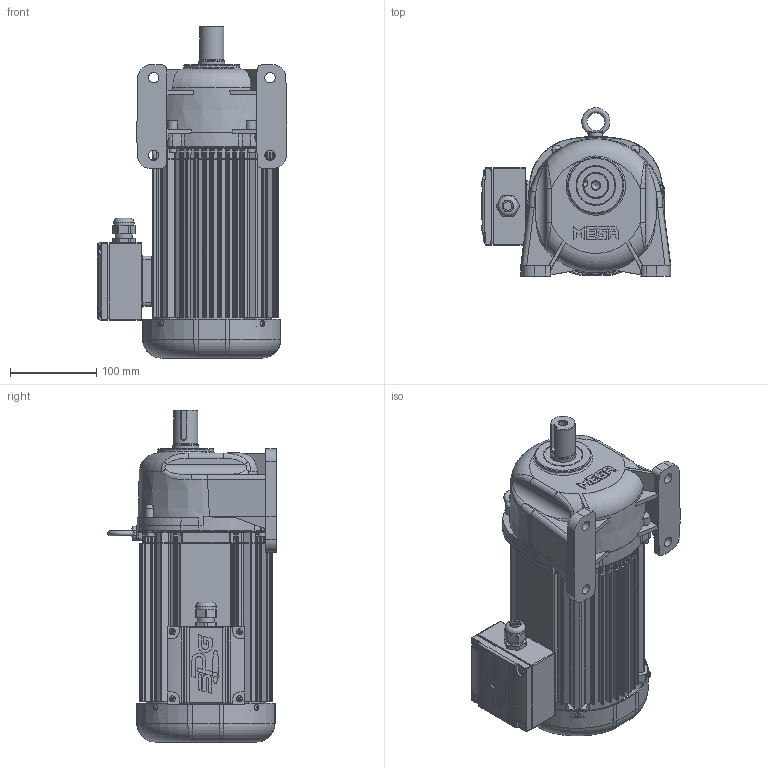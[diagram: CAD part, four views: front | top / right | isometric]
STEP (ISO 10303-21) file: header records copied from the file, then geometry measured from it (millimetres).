
FILE_DESCRIPTION(/* description */ (''),/* implementation_level */ '2;1');
FILE_NAME(/* name */ 'Z:\동력 3D 파일\PML105-(5~30)-PA(B)075[ ]L_(3D).stp',/* time_stamp */ '2021-08-27T16:01:25+09:00',/* author */ ('jaebok'),/* organization */ (''),/* preprocessor_version */ 'ST-DEVELOPER v18.1',/* originating_system */ 'Autodesk Inventor 2022',/* authorisation */ '');
FILE_SCHEMA (('AUTOMOTIVE_DESIGN { 1 0 10303 214 3 1 1 }'));
Products named in the file (1): 부품3
Bounding box: 220 x 195.3 x 385 mm (x, y, z)
Volume: 1859150 mm3; surface area: 686463.4 mm2
Topology: 1 solids, 32 shells, 3237 faces, 8334 edges, 5030 vertices
Faces by surface type: plane 1063, cylinder 881, bspline 764, torus 294, cone 137, sphere 98
Full cylindrical faces by diameter (mm): 2 x1, 3.25 x1, 3.5 x4, 3.6 x4, 4 x21, 4.134 x4, 5 x23, 5.5 x4, 6 x8, 7 x14, 8 x11, 8.5 x4, 10 x2, 12 x4, 12.5 x1, 15 x1, 18 x1, 19 x1, 20 x2, 20.6 x1, 21 x2, 23.6 x1, 25 x1, 27.6 x1, 27.96 x1, 28 x1, 30 x3, 32 x1, 35 x2, 36 x1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
Entity records: 129589 total; most frequent: CARTESIAN_POINT 52452, ORIENTED_EDGE 16228, DIRECTION 14327, EDGE_CURVE 8114, AXIS2_PLACEMENT_3D 5722, VERTEX_POINT 5030, EDGE_LOOP 3434, STYLED_ITEM 3238
